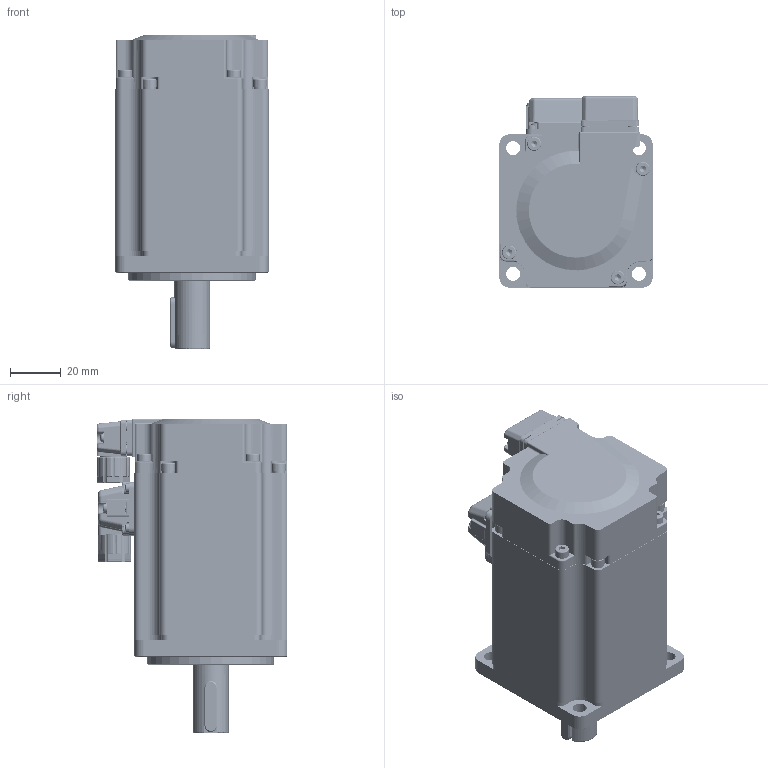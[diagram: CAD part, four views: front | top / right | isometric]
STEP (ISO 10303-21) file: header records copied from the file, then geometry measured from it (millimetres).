
FILE_DESCRIPTION (( 'STEP AP203' ), '1' );
FILE_NAME ('WB60ST-M01330 脣匿宒.STEP', '2024-01-03T05:11:36', ( '' ), ( '' ), 'SwSTEP 2.0', 'SolidWorks 2018', '' );
FILE_SCHEMA (( 'CONFIG_CONTROL_DESIGN' ));
Products named in the file (1): WB60ST-M01330 脣匿宒
Bounding box: 60.3 x 75.1 x 123.7 mm (x, y, z)
Volume: 166102.7 mm3; surface area: 108313.6 mm2
Topology: 44 solids, 44 shells, 6729 faces, 17917 edges, 11404 vertices
Faces by surface type: plane 3357, cylinder 1986, bspline 504, torus 498, cone 240, sphere 144
Entity records: 236012 total; most frequent: CARTESIAN_POINT 73834, ORIENTED_EDGE 35358, DIRECTION 31712, EDGE_CURVE 17679, VERTEX_POINT 11296, AXIS2_PLACEMENT_3D 10952, VECTOR 9808, LINE 9808
